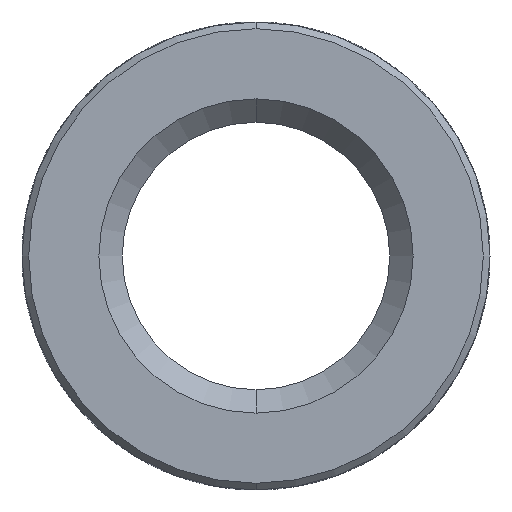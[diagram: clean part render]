
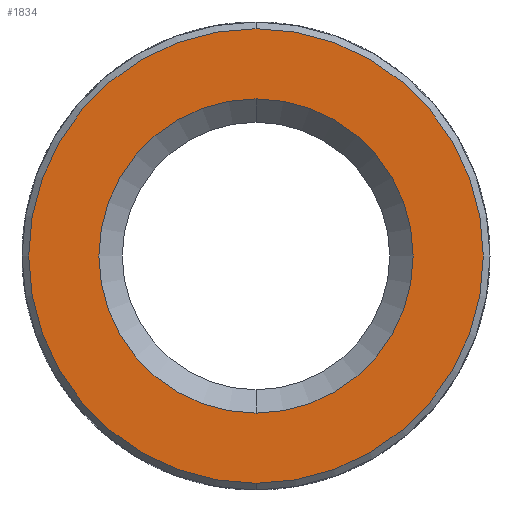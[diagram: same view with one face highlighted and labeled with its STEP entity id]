
A CAD part, front view. The second image highlights one B-rep face of the part: STEP entity #1834.
In plain terms, the highlighted planar face has unit normal (0, -1, 0).
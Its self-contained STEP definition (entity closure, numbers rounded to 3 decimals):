
#331 = DIRECTION ( 'NONE',  ( 0., -1., 0. ) ) ;
#404 = AXIS2_PLACEMENT_3D ( 'NONE', #3437, #2256, #1049 ) ;
#645 = ORIENTED_EDGE ( 'NONE', *, *, #2844, .T. ) ;
#675 = DIRECTION ( 'NONE',  ( 0., 0., -1. ) ) ;
#761 = CARTESIAN_POINT ( 'NONE',  ( 0., -7.7, 3.5 ) ) ;
#810 = AXIS2_PLACEMENT_3D ( 'NONE', #3044, #331, #3335 ) ;
#817 = CARTESIAN_POINT ( 'NONE',  ( 0., -7.7, -3.4 ) ) ;
#1049 = DIRECTION ( 'NONE',  ( 0., 0., -1. ) ) ;
#1123 = VERTEX_POINT ( 'NONE', #1267 ) ;
#1207 = EDGE_CURVE ( 'NONE', #2335, #1123, #2889, .T. ) ;
#1267 = CARTESIAN_POINT ( 'NONE',  ( 0., -7.7, 3.4 ) ) ;
#1318 = ORIENTED_EDGE ( 'NONE', *, *, #1207, .T. ) ;
#1356 = EDGE_CURVE ( 'NONE', #2472, #2851, #3773, .T. ) ;
#1479 = CIRCLE ( 'NONE', #3703, 2.35 ) ;
#1518 = CARTESIAN_POINT ( 'NONE',  ( 0., -7.7, 2.35 ) ) ;
#1588 = FACE_BOUND ( 'NONE', #3845, .T. ) ;
#1684 = DIRECTION ( 'NONE',  ( 0., 1., 0. ) ) ;
#1834 = ADVANCED_FACE ( 'NONE', ( #3163, #1588 ), #3195, .T. ) ;
#2037 = ORIENTED_EDGE ( 'NONE', *, *, #2420, .T. ) ;
#2200 = EDGE_LOOP ( 'NONE', ( #645, #1318 ) ) ;
#2256 = DIRECTION ( 'NONE',  ( 0., -1., 0. ) ) ;
#2310 = CARTESIAN_POINT ( 'NONE',  ( 0., -7.7, 0. ) ) ;
#2335 = VERTEX_POINT ( 'NONE', #817 ) ;
#2377 = ORIENTED_EDGE ( 'NONE', *, *, #1356, .T. ) ;
#2420 = EDGE_CURVE ( 'NONE', #2851, #2472, #1479, .T. ) ;
#2472 = VERTEX_POINT ( 'NONE', #1518 ) ;
#2501 = CARTESIAN_POINT ( 'NONE',  ( 0., -7.7, 0. ) ) ;
#2844 = EDGE_CURVE ( 'NONE', #1123, #2335, #3577, .T. ) ;
#2851 = VERTEX_POINT ( 'NONE', #3656 ) ;
#2889 = CIRCLE ( 'NONE', #404, 3.4 ) ;
#2969 = AXIS2_PLACEMENT_3D ( 'NONE', #2310, #1684, #3552 ) ;
#3044 = CARTESIAN_POINT ( 'NONE',  ( 0., -7.7, 0. ) ) ;
#3163 = FACE_OUTER_BOUND ( 'NONE', #2200, .T. ) ;
#3195 = PLANE ( 'NONE',  #3725 ) ;
#3335 = DIRECTION ( 'NONE',  ( 0., 0., -1. ) ) ;
#3437 = CARTESIAN_POINT ( 'NONE',  ( 0., -7.7, 0. ) ) ;
#3494 = DIRECTION ( 'NONE',  ( 0., 0., -1. ) ) ;
#3552 = DIRECTION ( 'NONE',  ( 0., 0., -1. ) ) ;
#3577 = CIRCLE ( 'NONE', #810, 3.4 ) ;
#3656 = CARTESIAN_POINT ( 'NONE',  ( 0., -7.7, -2.35 ) ) ;
#3693 = DIRECTION ( 'NONE',  ( 0., 1., 0. ) ) ;
#3703 = AXIS2_PLACEMENT_3D ( 'NONE', #2501, #3693, #675 ) ;
#3725 = AXIS2_PLACEMENT_3D ( 'NONE', #761, #3796, #3494 ) ;
#3773 = CIRCLE ( 'NONE', #2969, 2.35 ) ;
#3796 = DIRECTION ( 'NONE',  ( 0., -1., 0. ) ) ;
#3845 = EDGE_LOOP ( 'NONE', ( #2037, #2377 ) ) ;
